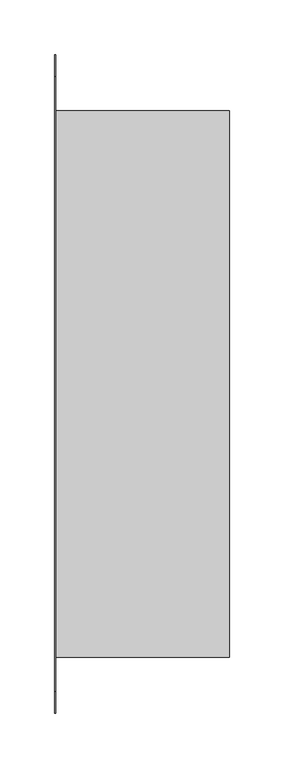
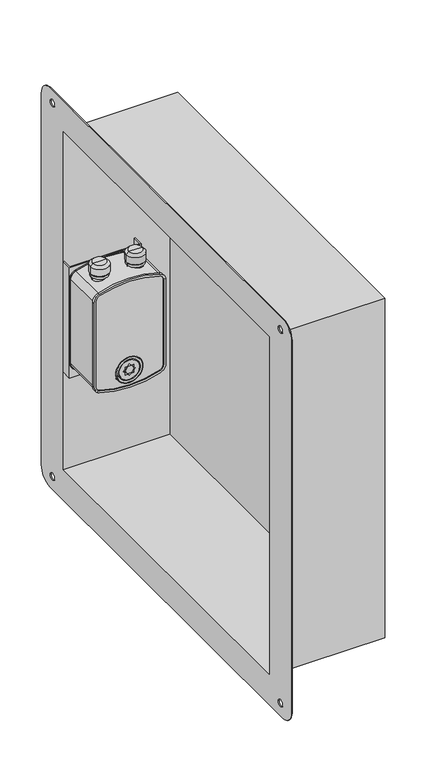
"""IFC4 building model written with IfcOpenShell, lengths in millimetres: damper geometry, СВ_КлапанПротивопожарный_КДМ-2М-3_НЗ_СтеновойПрямоугольный_СВОК : КДМ-2М_Привод FS."""

from ifc_helpers import new_model, si_unit, point, frame, frame_2d, origin, place, context, project, spatial, polyline, circle_curve, trimmed, segment, composite_curve, outline, extrude, source, transform, mapped, element, save
from ifc_brep_helpers import plane_surface, cylinder_surface, revolved_surface, advanced_brep


def damper_27d5a0eb(model_context):
    return source(origin(), model_context, "Body", "SolidModel", [
        extrude(outline(polyline([(-78.8298911, 248.8), (-78.8298911, 235.0), (18.8, 235.0), (18.8, 248.8), (20.0, 248.8), (20.0, 233.8), (-80.0298911, 233.8), (-80.0298911, 248.8), (-78.8298911, 248.8)])), frame((0.0, 0.0, -105.0), z_axis=(0.0, 0.0, 1.0), x_axis=(1.0, 0.0, 0.0)), (0.0, 0.0, 1.0), 162.5),
        extrude(outline(composite_curve([segment(polyline([(41.1260091, -80.0298911), (-83.1260091, -80.0298911)]), True, "CONTINUOUS"), segment(trimmed(circle_curve(frame_2d((-83.1260091, -69.0)), 11.0298911), [point((-83.1260091, -80.0298911))], [point((-93.5819866, -72.5115572))], False, "CARTESIAN"), True, "CONTINUOUS"), segment(trimmed(circle_curve(frame_2d((33.0, -30.0)), 133.5298911), [point((-93.5819866, -72.5115572))], [point((-93.5819866, 12.5115572))], False, "CARTESIAN"), True, "CONTINUOUS"), segment(trimmed(circle_curve(frame_2d((-83.1260091, 9.0)), 11.0298911), [point((-93.5819866, 12.5115572))], [point((-83.1260091, 20.0298911))], False, "CARTESIAN"), True, "CONTINUOUS"), segment(polyline([(-83.1260091, 20.0298911), (41.1260091, 20.0298911)]), True, "CONTINUOUS"), segment(trimmed(circle_curve(frame_2d((41.1260091, 9.0)), 11.0298911), [point((41.1260091, 20.0298911))], [point((51.5819866, 12.5115572))], False, "CARTESIAN"), True, "CONTINUOUS"), segment(trimmed(circle_curve(frame_2d((-75.0, -30.0)), 133.5298911), [point((51.5819866, 12.5115572))], [point((51.5819866, -72.5115572))], False, "CARTESIAN"), True, "CONTINUOUS"), segment(trimmed(circle_curve(frame_2d((41.1260091, -69.0)), 11.0298911), [point((51.5819866, -72.5115572))], [point((41.1260091, -80.0298911))], False, "CARTESIAN"), True, "CONTINUOUS")], self_intersect=False), holes=[composite_curve([segment(trimmed(circle_curve(frame_2d((33.0, -30.0)), 132.5), [point((-92.6056834, 12.1836735))], [point((-92.6056834, -72.1836735))], True, "CARTESIAN"), True, "CONTINUOUS"), segment(trimmed(circle_curve(frame_2d((-83.1260091, -69.0)), 10.0), [point((-92.6056834, -72.1836735))], [point((-83.1260091, -79.0))], True, "CARTESIAN"), True, "CONTINUOUS"), segment(polyline([(-83.1260091, -79.0), (41.1260091, -79.0)]), True, "CONTINUOUS"), segment(trimmed(circle_curve(frame_2d((41.1260091, -69.0)), 10.0), [point((41.1260091, -79.0))], [point((50.6056834, -72.1836735))], True, "CARTESIAN"), True, "CONTINUOUS"), segment(trimmed(circle_curve(frame_2d((-75.0, -30.0)), 132.5), [point((50.6056834, -72.1836735))], [point((50.6056834, 12.1836735))], True, "CARTESIAN"), True, "CONTINUOUS"), segment(trimmed(circle_curve(frame_2d((41.1260091, 9.0)), 10.0), [point((50.6056834, 12.1836735))], [point((41.1260091, 19.0))], True, "CARTESIAN"), True, "CONTINUOUS"), segment(polyline([(41.1260091, 19.0), (-83.1260091, 19.0)]), True, "CONTINUOUS"), segment(trimmed(circle_curve(frame_2d((-83.1260091, 9.0)), 10.0), [point((-83.1260091, 19.0))], [point((-92.6056834, 12.1836735))], True, "CARTESIAN"), True, "CONTINUOUS")], self_intersect=False)]), frame((0.0, 231.8, 0.0), z_axis=(0.0, 1.0, 0.0), x_axis=(0.0, 0.0, 1.0)), (0.0, 0.0, 1.0), 2.0),
        advanced_brep(
        [(-72.1836735, 177.8, -92.6056834), (-79.0, 177.8, -83.1260091), (-79.0, 175.8, -83.1260091), (-72.1836735, 175.8, -92.6056834), (-72.5115572, 174.8, -93.5819866), (-80.0298911, 174.8, -83.1260091), (-80.0298911, 177.8, -83.1260091), (-72.5115572, 177.8, -93.5819866), (-71.5469388, 175.8, -90.7097485), (-77.0, 175.8, -83.1260091), (-77.0, 174.8, -83.1260091), (-71.5469388, 174.8, -90.7097485), (12.1836735, 177.8, -92.6056834), (12.1836735, 175.8, -92.6056834), (12.5115572, 174.8, -93.5819866), (12.5115572, 177.8, -93.5819866), (11.5469388, 175.8, -90.7097485), (11.5469388, 174.8, -90.7097485), (19.0, 177.8, -83.1260091), (19.0, 175.8, -83.1260091), (20.0298911, 174.8, -83.1260091), (20.0298911, 177.8, -83.1260091), (17.0, 175.8, -83.1260091), (17.0, 174.8, -83.1260091), (19.0, 175.8, 41.1260091), (19.0, 177.8, 41.1260091), (20.0298911, 177.8, 41.1260091), (20.0298911, 174.8, 41.1260091), (17.0, 174.8, 41.1260091), (17.0, 175.8, 41.1260091), (12.1836735, 177.8, 50.6056834), (12.1836735, 175.8, 50.6056834), (12.5115572, 174.8, 51.5819866), (12.5115572, 177.8, 51.5819866), (11.5469388, 175.8, 48.7097485), (11.5469388, 174.8, 48.7097485), (-72.1836735, 177.8, 50.6056834), (-72.1836735, 175.8, 50.6056834), (-72.5115572, 174.8, 51.5819866), (-72.5115572, 177.8, 51.5819866), (-71.5469388, 175.8, 48.7097485), (-71.5469388, 174.8, 48.7097485), (-79.0, 177.8, 41.1260091), (-79.0, 175.8, 41.1260091), (-80.0298911, 174.8, 41.1260091), (-80.0298911, 177.8, 41.1260091), (-77.0, 175.8, 41.1260091), (-77.0, 174.8, 41.1260091)],
        [
            (0, 1, circle_curve(frame((-69.0, 177.8, -83.1260091), z_axis=(0.0, 1.0, 0.0), x_axis=(-1.0, 0.0, 0.0)), 10.0)),
            (1, 2),
            (2, 3, circle_curve(frame((-69.0, 175.8, -83.1260091), z_axis=(0.0, -1.0, 0.0), x_axis=(-1.0, 0.0, 0.0)), 10.0)),
            (3, 0),
            (4, 5, circle_curve(frame((-69.0, 174.8, -83.1260091), z_axis=(0.0, 1.0, 0.0), x_axis=(-1.0, 0.0, 0.0)), 11.0298911)),
            (5, 6),
            (6, 7, circle_curve(frame((-69.0, 177.8, -83.1260091), z_axis=(0.0, -1.0, 0.0), x_axis=(-1.0, 0.0, 0.0)), 11.0298911)),
            (7, 4),
            (8, 9, circle_curve(frame((-69.0, 175.8, -83.1260091), z_axis=(0.0, 1.0, 0.0), x_axis=(-1.0, 0.0, 0.0)), 8.0)),
            (9, 10),
            (10, 11, circle_curve(frame((-69.0, 174.8, -83.1260091), z_axis=(0.0, -1.0, 0.0), x_axis=(-1.0, 0.0, 0.0)), 8.0)),
            (11, 8),
            (12, 0, circle_curve(frame((-30.0, 177.8, 33.0), z_axis=(0.0, 1.0, 0.0), x_axis=(-0.31836734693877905, 0.0, -0.947967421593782)), 132.5)),
            (3, 13, circle_curve(frame((-30.0, 175.8, 33.0), z_axis=(0.0, -1.0, 0.0), x_axis=(-0.31836734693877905, 0.0, -0.947967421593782)), 132.5)),
            (13, 12),
            (14, 4, circle_curve(frame((-30.0, 174.8, 33.0), z_axis=(0.0, 1.0, 0.0), x_axis=(-0.31836734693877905, 0.0, -0.947967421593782)), 133.5298911)),
            (7, 15, circle_curve(frame((-30.0, 177.8, 33.0), z_axis=(0.0, -1.0, 0.0), x_axis=(-0.31836734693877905, 0.0, -0.947967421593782)), 133.5298911)),
            (15, 14),
            (16, 8, circle_curve(frame((-30.0, 175.8, 33.0), z_axis=(0.0, 1.0, 0.0), x_axis=(-0.31836734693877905, 0.0, -0.947967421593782)), 130.5)),
            (11, 17, circle_curve(frame((-30.0, 174.8, 33.0), z_axis=(0.0, -1.0, 0.0), x_axis=(-0.31836734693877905, 0.0, -0.947967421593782)), 130.5)),
            (17, 16),
            (18, 12, circle_curve(frame((9.0, 177.8, -83.1260091), z_axis=(0.0, 1.0, 0.0), x_axis=(0.3183673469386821, 0.0, -0.9479674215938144)), 10.0)),
            (13, 19, circle_curve(frame((9.0, 175.8, -83.1260091), z_axis=(0.0, -1.0, 0.0), x_axis=(0.3183673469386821, 0.0, -0.9479674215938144)), 10.0)),
            (19, 18),
            (20, 14, circle_curve(frame((9.0, 174.8, -83.1260091), z_axis=(0.0, 1.0, 0.0), x_axis=(0.3183673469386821, 0.0, -0.9479674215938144)), 11.0298911)),
            (15, 21, circle_curve(frame((9.0, 177.8, -83.1260091), z_axis=(0.0, -1.0, 0.0), x_axis=(0.3183673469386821, 0.0, -0.9479674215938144)), 11.0298911)),
            (21, 20),
            (22, 16, circle_curve(frame((9.0, 175.8, -83.1260091), z_axis=(0.0, 1.0, 0.0), x_axis=(0.3183673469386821, 0.0, -0.9479674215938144)), 8.0)),
            (17, 23, circle_curve(frame((9.0, 174.8, -83.1260091), z_axis=(0.0, -1.0, 0.0), x_axis=(0.3183673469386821, 0.0, -0.9479674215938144)), 8.0)),
            (23, 22),
            (19, 24),
            (24, 25),
            (25, 18),
            (21, 26),
            (26, 27),
            (27, 20),
            (23, 28),
            (28, 29),
            (29, 22),
            (30, 25, circle_curve(frame((9.0, 177.8, 41.1260091), z_axis=(0.0, 1.0, 0.0), x_axis=(1.0, 0.0, 0.0)), 10.0)),
            (24, 31, circle_curve(frame((9.0, 175.8, 41.1260091), z_axis=(0.0, -1.0, 0.0), x_axis=(1.0, 0.0, 0.0)), 10.0)),
            (31, 30),
            (32, 27, circle_curve(frame((9.0, 174.8, 41.1260091), z_axis=(0.0, 1.0, 0.0), x_axis=(1.0, 0.0, 0.0)), 11.0298911)),
            (26, 33, circle_curve(frame((9.0, 177.8, 41.1260091), z_axis=(0.0, -1.0, 0.0), x_axis=(1.0, 0.0, 0.0)), 11.0298911)),
            (33, 32),
            (34, 29, circle_curve(frame((9.0, 175.8, 41.1260091), z_axis=(0.0, 1.0, 0.0), x_axis=(1.0, 0.0, 0.0)), 8.0)),
            (28, 35, circle_curve(frame((9.0, 174.8, 41.1260091), z_axis=(0.0, -1.0, 0.0), x_axis=(1.0, 0.0, 0.0)), 8.0)),
            (35, 34),
            (36, 30, circle_curve(frame((-30.0, 177.8, -75.0), z_axis=(0.0, 1.0, 0.0), x_axis=(0.3183673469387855, 0.0, 0.9479674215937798)), 132.5)),
            (31, 37, circle_curve(frame((-30.0, 175.8, -75.0), z_axis=(0.0, -1.0, 0.0), x_axis=(0.3183673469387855, 0.0, 0.9479674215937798)), 132.5)),
            (37, 36),
            (38, 32, circle_curve(frame((-30.0, 174.8, -75.0), z_axis=(0.0, 1.0, 0.0), x_axis=(0.3183673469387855, 0.0, 0.9479674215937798)), 133.5298911)),
            (33, 39, circle_curve(frame((-30.0, 177.8, -75.0), z_axis=(0.0, -1.0, 0.0), x_axis=(0.3183673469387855, 0.0, 0.9479674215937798)), 133.5298911)),
            (39, 38),
            (40, 34, circle_curve(frame((-30.0, 175.8, -75.0), z_axis=(0.0, 1.0, 0.0), x_axis=(0.3183673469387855, 0.0, 0.9479674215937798)), 130.5)),
            (35, 41, circle_curve(frame((-30.0, 174.8, -75.0), z_axis=(0.0, -1.0, 0.0), x_axis=(0.3183673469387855, 0.0, 0.9479674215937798)), 130.5)),
            (41, 40),
            (42, 36, circle_curve(frame((-69.0, 177.8, 41.1260091), z_axis=(0.0, 1.0, 0.0), x_axis=(-0.3183673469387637, 0.0, 0.947967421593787)), 10.0)),
            (37, 43, circle_curve(frame((-69.0, 175.8, 41.1260091), z_axis=(0.0, -1.0, 0.0), x_axis=(-0.3183673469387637, 0.0, 0.947967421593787)), 10.0)),
            (43, 42),
            (44, 38, circle_curve(frame((-69.0, 174.8, 41.1260091), z_axis=(0.0, 1.0, 0.0), x_axis=(-0.3183673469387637, 0.0, 0.947967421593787)), 11.0298911)),
            (39, 45, circle_curve(frame((-69.0, 177.8, 41.1260091), z_axis=(0.0, -1.0, 0.0), x_axis=(-0.3183673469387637, 0.0, 0.947967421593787)), 11.0298911)),
            (45, 44),
            (46, 40, circle_curve(frame((-69.0, 175.8, 41.1260091), z_axis=(0.0, 1.0, 0.0), x_axis=(-0.3183673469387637, 0.0, 0.947967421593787)), 8.0)),
            (41, 47, circle_curve(frame((-69.0, 174.8, 41.1260091), z_axis=(0.0, -1.0, 0.0), x_axis=(-0.3183673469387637, 0.0, 0.947967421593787)), 8.0)),
            (47, 46),
            (2, 43),
            (46, 9),
            (1, 42),
            (6, 45),
            (5, 44),
            (10, 47),
        ],
        [
            revolved_surface(polyline([(-79.0, 175.8, -83.1260091), (-79.0, 177.8, -83.1260091)]), (-69.0, 175.8, -83.1260091), (0.0, -1.0, 0.0)),
            cylinder_surface(frame((-69.0, 175.8, -83.1260091), z_axis=(0.0, -1.0, 0.0), x_axis=(-1.0, 0.0, 0.0)), 11.0298911),
            revolved_surface(polyline([(-77.0, 174.8, -83.1260091), (-77.0, 175.8, -83.1260091)]), (-69.0, 175.8, -83.1260091), (0.0, -1.0, 0.0)),
            revolved_surface(polyline([(-72.18367346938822, 175.8, -92.60568336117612), (-72.18367346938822, 177.8, -92.60568336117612)]), (-30.0, 175.8, 33.0), (0.0, -1.0, 0.0)),
            cylinder_surface(frame((-30.0, 175.8, 33.0), z_axis=(0.0, -1.0, 0.0), x_axis=(-0.31836734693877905, 0.0, -0.947967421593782)), 133.5298911),
            revolved_surface(polyline([(-71.54693877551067, 174.8, -90.70974851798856), (-71.54693877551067, 175.8, -90.70974851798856)]), (-30.0, 175.8, 33.0), (0.0, -1.0, 0.0)),
            revolved_surface(polyline([(12.183673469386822, 175.8, -92.60568331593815), (12.183673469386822, 177.8, -92.60568331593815)]), (9.0, 175.8, -83.1260091), (0.0, -1.0, 0.0)),
            cylinder_surface(frame((9.0, 175.8, -83.1260091), z_axis=(0.0, -1.0, 0.0), x_axis=(0.3183673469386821, 0.0, -0.9479674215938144)), 11.0298911),
            revolved_surface(polyline([(11.546938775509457, 174.8, -90.70974847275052), (11.546938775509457, 175.8, -90.70974847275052)]), (9.0, 175.8, -83.1260091), (0.0, -1.0, 0.0)),
            plane_surface(frame((19.0, 175.8, -83.1260091), z_axis=(-1.0, 0.0, 0.0), x_axis=(0.0, 0.0, 1.0))),
            plane_surface(frame((20.0298911, 177.8, -83.1260091), z_axis=(1.0, 0.0, 0.0), x_axis=(0.0, 0.0, 1.0))),
            plane_surface(frame((17.0, 174.8, -83.1260091), z_axis=(-1.0, 0.0, 0.0), x_axis=(0.0, 0.0, 1.0))),
            revolved_surface(polyline([(19.0, 175.8, 41.1260091), (19.0, 177.8, 41.1260091)]), (9.0, 175.8, 41.1260091), (0.0, -1.0, 0.0)),
            cylinder_surface(frame((9.0, 175.8, 41.1260091), z_axis=(0.0, -1.0, 0.0), x_axis=(1.0, 0.0, 0.0)), 11.0298911),
            revolved_surface(polyline([(17.0, 174.8, 41.1260091), (17.0, 175.8, 41.1260091)]), (9.0, 175.8, 41.1260091), (0.0, -1.0, 0.0)),
            revolved_surface(polyline([(12.183673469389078, 175.8, 50.60568336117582), (12.183673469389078, 177.8, 50.60568336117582)]), (-30.0, 175.8, -75.0), (0.0, -1.0, 0.0)),
            cylinder_surface(frame((-30.0, 175.8, -75.0), z_axis=(0.0, -1.0, 0.0), x_axis=(0.3183673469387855, 0.0, 0.9479674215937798)), 133.5298911),
            revolved_surface(polyline([(11.546938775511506, 174.8, 48.70974851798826), (11.546938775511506, 175.8, 48.70974851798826)]), (-30.0, 175.8, -75.0), (0.0, -1.0, 0.0)),
            revolved_surface(polyline([(-72.18367346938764, 175.8, 50.60568331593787), (-72.18367346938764, 177.8, 50.60568331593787)]), (-69.0, 175.8, 41.1260091), (0.0, -1.0, 0.0)),
            cylinder_surface(frame((-69.0, 175.8, 41.1260091), z_axis=(0.0, -1.0, 0.0), x_axis=(-0.3183673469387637, 0.0, 0.947967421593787)), 11.0298911),
            revolved_surface(polyline([(-71.54693877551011, 174.8, 48.70974847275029), (-71.54693877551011, 175.8, 48.70974847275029)]), (-69.0, 175.8, 41.1260091), (0.0, -1.0, 0.0)),
            plane_surface(frame((-77.0, 175.8, 41.1260091), z_axis=(0.0, 1.0, 0.0), x_axis=(0.0, 0.0, -1.0))),
            plane_surface(frame((-79.0, 175.8, 41.1260091), z_axis=(1.0, 0.0, 0.0), x_axis=(0.0, 0.0, -1.0))),
            plane_surface(frame((-79.0, 177.8, 41.1260091), z_axis=(0.0, 1.0, 0.0), x_axis=(0.0, 0.0, -1.0))),
            plane_surface(frame((-80.0298911, 177.8, 41.1260091), z_axis=(-1.0, 0.0, 0.0), x_axis=(0.0, 0.0, -1.0))),
            plane_surface(frame((-80.0298911, 174.8, 41.1260091), z_axis=(0.0, -1.0, 0.0), x_axis=(0.0, 0.0, -1.0))),
            plane_surface(frame((-77.0, 174.8, 41.1260091), z_axis=(1.0, 0.0, 0.0), x_axis=(0.0, 0.0, -1.0))),
        ],
        [
            (0, [[1, 2, 3, 4]]),
            (1, [[5, 6, 7, 8]]),
            (2, [[9, 10, 11, 12]]),
            (3, [[13, -4, 14, 15]]),
            (4, [[16, -8, 17, 18]]),
            (5, [[19, -12, 20, 21]]),
            (6, [[22, -15, 23, 24]]),
            (7, [[25, -18, 26, 27]]),
            (8, [[28, -21, 29, 30]]),
            (9, [[-24, 31, 32, 33]]),
            (10, [[-27, 34, 35, 36]]),
            (11, [[-30, 37, 38, 39]]),
            (12, [[40, -32, 41, 42]]),
            (13, [[43, -35, 44, 45]]),
            (14, [[46, -38, 47, 48]]),
            (15, [[49, -42, 50, 51]]),
            (16, [[52, -45, 53, 54]]),
            (17, [[55, -48, 56, 57]]),
            (18, [[58, -51, 59, 60]]),
            (19, [[61, -54, 62, 63]]),
            (20, [[64, -57, 65, 66]]),
            (21, [[67, -59, -50, -41, -31, -23, -14, -3], [-55, -64, 68, -9, -19, -28, -39, -46]]),
            (22, [[-60, -67, -2, 69]]),
            (23, [[70, -62, -53, -44, -34, -26, -17, -7], [-49, -58, -69, -1, -13, -22, -33, -40]]),
            (24, [[-63, -70, -6, 71]]),
            (25, [[-52, -61, -71, -5, -16, -25, -36, -43], [72, -65, -56, -47, -37, -29, -20, -11]]),
            (26, [[-66, -72, -10, -68]]),
        ],
    ),
        advanced_brep(
        [(-45.0, 204.8, 57.5), (-65.0, 204.8, 57.5), (-66.9771465, 204.8, 57.5), (-43.0228535, 204.8, 57.5), (-66.9771465, 204.8, 60.4915282), (-43.0228535, 204.8, 60.4915282), (-62.9771465, 204.8, 60.4915282), (-47.0228535, 204.8, 60.4915282), (-62.9771465, 204.8, 62.4754985), (-47.0228535, 204.8, 62.4754985), (-67.9771465, 204.8, 62.4754985), (-42.0228535, 204.8, 62.4754985), (-67.9771465, 204.8, 72.4754985), (-42.0228535, 204.8, 72.4754985), (-64.4416126, 204.8, 76.0110324), (-45.5583874, 204.8, 76.0110324), (-55.0, 204.8, 76.0110324), (-55.0, 204.8, 45.900028), (-65.0, 204.8, 45.900028), (-45.0, 204.8, 45.900028)],
        [
            (0, 1, circle_curve(frame((-55.0, 204.8, 57.5), z_axis=(0.0, 0.0, 1.0), x_axis=(-1.0, 0.0, 0.0)), 10.0)),
            (1, 2),
            (2, 3, circle_curve(frame((-55.0, 204.8, 57.5), z_axis=(0.0, 0.0, -1.0), x_axis=(-1.0, 0.0, 0.0)), 11.9771465)),
            (3, 0),
            (1, 0, circle_curve(frame((-55.0, 204.8, 57.5), z_axis=(0.0, 0.0, 1.0), x_axis=(-1.0, 0.0, 0.0)), 10.0)),
            (3, 2, circle_curve(frame((-55.0, 204.8, 57.5), z_axis=(0.0, 0.0, -1.0), x_axis=(-1.0, 0.0, 0.0)), 11.9771465)),
            (2, 4),
            (4, 5, circle_curve(frame((-55.0, 204.8, 60.4915282), z_axis=(0.0, 0.0, -1.0), x_axis=(-1.0, 0.0, 0.0)), 11.9771465)),
            (5, 3),
            (5, 4, circle_curve(frame((-55.0, 204.8, 60.4915282), z_axis=(0.0, 0.0, -1.0), x_axis=(-1.0, 0.0, 0.0)), 11.9771465)),
            (4, 6),
            (6, 7, circle_curve(frame((-55.0, 204.8, 60.4915282), z_axis=(0.0, 0.0, -1.0), x_axis=(-1.0, 0.0, 0.0)), 7.9771465)),
            (7, 5),
            (7, 6, circle_curve(frame((-55.0, 204.8, 60.4915282), z_axis=(0.0, 0.0, -1.0), x_axis=(-1.0, 0.0, 0.0)), 7.9771465)),
            (6, 8),
            (8, 9, circle_curve(frame((-55.0, 204.8, 62.4754985), z_axis=(0.0, 0.0, -1.0), x_axis=(-1.0, 0.0, 0.0)), 7.9771465)),
            (9, 7),
            (9, 8, circle_curve(frame((-55.0, 204.8, 62.4754985), z_axis=(0.0, 0.0, -1.0), x_axis=(-1.0, 0.0, 0.0)), 7.9771465)),
            (8, 10),
            (10, 11, circle_curve(frame((-55.0, 204.8, 62.4754985), z_axis=(0.0, 0.0, -1.0), x_axis=(-1.0, 0.0, 0.0)), 12.9771465)),
            (11, 9),
            (11, 10, circle_curve(frame((-55.0, 204.8, 62.4754985), z_axis=(0.0, 0.0, -1.0), x_axis=(-1.0, 0.0, 0.0)), 12.9771465)),
            (10, 12),
            (12, 13, circle_curve(frame((-55.0, 204.8, 72.4754985), z_axis=(0.0, 0.0, -1.0), x_axis=(-1.0, 0.0, 0.0)), 12.9771465)),
            (13, 11),
            (13, 12, circle_curve(frame((-55.0, 204.8, 72.4754985), z_axis=(0.0, 0.0, -1.0), x_axis=(-1.0, 0.0, 0.0)), 12.9771465)),
            (12, 14),
            (14, 15, circle_curve(frame((-55.0, 204.8, 76.0110324), z_axis=(0.0, 0.0, -1.0), x_axis=(-1.0, 0.0, 0.0)), 9.4416126)),
            (15, 13),
            (15, 14, circle_curve(frame((-55.0, 204.8, 76.0110324), z_axis=(0.0, 0.0, -1.0), x_axis=(-1.0, 0.0, 0.0)), 9.4416126)),
            (14, 16),
            (16, 15),
            (17, 18),
            (18, 19, circle_curve(frame((-55.0, 204.8, 45.900028), z_axis=(0.0, 0.0, -1.0), x_axis=(-1.0, 0.0, 0.0)), 10.0)),
            (19, 17),
            (19, 18, circle_curve(frame((-55.0, 204.8, 45.900028), z_axis=(0.0, 0.0, -1.0), x_axis=(-1.0, 0.0, 0.0)), 10.0)),
            (18, 1),
            (0, 19),
        ],
        [
            plane_surface(frame((-55.0, 204.8, 57.5), z_axis=(0.0, 0.0, -1.0), x_axis=(-1.0, 0.0, 0.0))),
            cylinder_surface(frame((-55.0, 204.8, 386.314844), z_axis=(0.0, 0.0, -1.0), x_axis=(-1.0, 0.0, 0.0)), 11.9771465),
            plane_surface(frame((-55.0, 204.8, 60.4915282), z_axis=(0.0, 0.0, 1.0), x_axis=(-1.0, 0.0, 0.0))),
            cylinder_surface(frame((-55.0, 204.8, 386.314844), z_axis=(0.0, 0.0, -1.0), x_axis=(-1.0, 0.0, 0.0)), 7.9771465),
            plane_surface(frame((-55.0, 204.8, 62.4754985), z_axis=(0.0, 0.0, -1.0), x_axis=(-1.0, 0.0, 0.0))),
            cylinder_surface(frame((-55.0, 204.8, 386.314844), z_axis=(0.0, 0.0, -1.0), x_axis=(-1.0, 0.0, 0.0)), 12.9771465),
            revolved_surface(polyline([(-64.4416126, 204.8, 76.0110324), (-67.9771465, 204.8, 72.4754985)]), (-55.0, 204.8, 386.314844), (0.0, 0.0, -1.0)),
            plane_surface(frame((-55.0, 204.8, 76.0110324), z_axis=(0.0, 0.0, 1.0), x_axis=(-1.0, 0.0, 0.0))),
            plane_surface(frame((-55.0, 204.8, 45.900028), z_axis=(0.0, 0.0, -1.0), x_axis=(-1.0, 0.0, 0.0))),
            cylinder_surface(frame((-55.0, 204.8, 386.314844), z_axis=(0.0, 0.0, -1.0), x_axis=(-1.0, 0.0, 0.0)), 10.0),
        ],
        [
            (0, [[1, 2, 3, 4]]),
            (0, [[5, -4, 6, -2]]),
            (1, [[-3, 7, 8, 9]]),
            (1, [[-6, -9, 10, -7]]),
            (2, [[-8, 11, 12, 13]]),
            (2, [[-10, -13, 14, -11]]),
            (3, [[-12, 15, 16, 17]]),
            (3, [[-14, -17, 18, -15]]),
            (4, [[-16, 19, 20, 21]]),
            (4, [[-18, -21, 22, -19]]),
            (5, [[-20, 23, 24, 25]]),
            (5, [[-22, -25, 26, -23]]),
            (6, [[-24, 27, 28, 29]]),
            (6, [[-26, -29, 30, -27]]),
            (7, [[-28, 31, 32]]),
            (7, [[-30, -32, -31]]),
            (8, [[33, 34, 35]]),
            (8, [[-35, 36, -33]]),
            (9, [[-34, 37, -1, 38]]),
            (9, [[-36, -38, -5, -37]]),
        ],
    ),
        advanced_brep(
        [(-16.9771465, 204.8, 57.5), (6.9771465, 204.8, 57.5), (5.0, 204.8, 57.5), (-15.0, 204.8, 57.5), (-16.9771465, 204.8, 60.4915282), (6.9771465, 204.8, 60.4915282), (-12.9771465, 204.8, 60.4915282), (2.9771465, 204.8, 60.4915282), (-12.9771465, 204.8, 62.4754985), (2.9771465, 204.8, 62.4754985), (-17.9771465, 204.8, 62.4754985), (7.9771465, 204.8, 62.4754985), (-17.9771465, 204.8, 72.4754985), (7.9771465, 204.8, 72.4754985), (-14.4416126, 204.8, 76.0110324), (4.4416126, 204.8, 76.0110324), (-5.0, 204.8, 76.0110324), (-15.0, 204.8, 45.900028), (5.0, 204.8, 45.900028), (-5.0, 204.8, 45.900028)],
        [
            (0, 1, circle_curve(frame((-5.0, 204.8, 57.5), z_axis=(0.0, 0.0, -1.0), x_axis=(1.0, 0.0, 0.0)), 11.9771465)),
            (1, 2),
            (2, 3, circle_curve(frame((-5.0, 204.8, 57.5), z_axis=(0.0, 0.0, 1.0), x_axis=(1.0, 0.0, 0.0)), 10.0)),
            (3, 0),
            (1, 0, circle_curve(frame((-5.0, 204.8, 57.5), z_axis=(0.0, 0.0, -1.0), x_axis=(1.0, 0.0, 0.0)), 11.9771465)),
            (3, 2, circle_curve(frame((-5.0, 204.8, 57.5), z_axis=(0.0, 0.0, 1.0), x_axis=(1.0, 0.0, 0.0)), 10.0)),
            (4, 5, circle_curve(frame((-5.0, 204.8, 60.4915282), z_axis=(0.0, 0.0, -1.0), x_axis=(1.0, 0.0, 0.0)), 11.9771465)),
            (5, 1),
            (0, 4),
            (5, 4, circle_curve(frame((-5.0, 204.8, 60.4915282), z_axis=(0.0, 0.0, -1.0), x_axis=(1.0, 0.0, 0.0)), 11.9771465)),
            (6, 7, circle_curve(frame((-5.0, 204.8, 60.4915282), z_axis=(0.0, 0.0, -1.0), x_axis=(1.0, 0.0, 0.0)), 7.9771465)),
            (7, 5),
            (4, 6),
            (7, 6, circle_curve(frame((-5.0, 204.8, 60.4915282), z_axis=(0.0, 0.0, -1.0), x_axis=(1.0, 0.0, 0.0)), 7.9771465)),
            (8, 9, circle_curve(frame((-5.0, 204.8, 62.4754985), z_axis=(0.0, 0.0, -1.0), x_axis=(1.0, 0.0, 0.0)), 7.9771465)),
            (9, 7),
            (6, 8),
            (9, 8, circle_curve(frame((-5.0, 204.8, 62.4754985), z_axis=(0.0, 0.0, -1.0), x_axis=(1.0, 0.0, 0.0)), 7.9771465)),
            (10, 11, circle_curve(frame((-5.0, 204.8, 62.4754985), z_axis=(0.0, 0.0, -1.0), x_axis=(1.0, 0.0, 0.0)), 12.9771465)),
            (11, 9),
            (8, 10),
            (11, 10, circle_curve(frame((-5.0, 204.8, 62.4754985), z_axis=(0.0, 0.0, -1.0), x_axis=(1.0, 0.0, 0.0)), 12.9771465)),
            (12, 13, circle_curve(frame((-5.0, 204.8, 72.4754985), z_axis=(0.0, 0.0, -1.0), x_axis=(1.0, 0.0, 0.0)), 12.9771465)),
            (13, 11),
            (10, 12),
            (13, 12, circle_curve(frame((-5.0, 204.8, 72.4754985), z_axis=(0.0, 0.0, -1.0), x_axis=(1.0, 0.0, 0.0)), 12.9771465)),
            (14, 15, circle_curve(frame((-5.0, 204.8, 76.0110324), z_axis=(0.0, 0.0, -1.0), x_axis=(1.0, 0.0, 0.0)), 9.4416126)),
            (15, 13),
            (12, 14),
            (15, 14, circle_curve(frame((-5.0, 204.8, 76.0110324), z_axis=(0.0, 0.0, -1.0), x_axis=(1.0, 0.0, 0.0)), 9.4416126)),
            (16, 15),
            (14, 16),
            (17, 18, circle_curve(frame((-5.0, 204.8, 45.900028), z_axis=(0.0, 0.0, -1.0), x_axis=(1.0, 0.0, 0.0)), 10.0)),
            (18, 19),
            (19, 17),
            (18, 17, circle_curve(frame((-5.0, 204.8, 45.900028), z_axis=(0.0, 0.0, -1.0), x_axis=(1.0, 0.0, 0.0)), 10.0)),
            (2, 18),
            (17, 3),
        ],
        [
            plane_surface(frame((-5.0, 204.8, 57.5), z_axis=(0.0, 0.0, -1.0), x_axis=(1.0, 0.0, 0.0))),
            cylinder_surface(frame((-5.0, 204.8, 386.314844), z_axis=(0.0, 0.0, 1.0), x_axis=(1.0, 0.0, 0.0)), 11.9771465),
            plane_surface(frame((-5.0, 204.8, 60.4915282), z_axis=(0.0, 0.0, 1.0), x_axis=(1.0, 0.0, 0.0))),
            cylinder_surface(frame((-5.0, 204.8, 386.314844), z_axis=(0.0, 0.0, 1.0), x_axis=(1.0, 0.0, 0.0)), 7.9771465),
            plane_surface(frame((-5.0, 204.8, 62.4754985), z_axis=(0.0, 0.0, -1.0), x_axis=(1.0, 0.0, 0.0))),
            cylinder_surface(frame((-5.0, 204.8, 386.314844), z_axis=(0.0, 0.0, 1.0), x_axis=(1.0, 0.0, 0.0)), 12.9771465),
            revolved_surface(polyline([(7.9771465, 204.8, 72.4754985), (4.4416126, 204.8, 76.0110324)]), (-5.0, 204.8, 386.314844), (0.0, 0.0, 1.0)),
            plane_surface(frame((-5.0, 204.8, 76.0110324), z_axis=(0.0, 0.0, 1.0), x_axis=(1.0, 0.0, 0.0))),
            plane_surface(frame((-5.0, 204.8, 45.900028), z_axis=(0.0, 0.0, -1.0), x_axis=(1.0, 0.0, 0.0))),
            cylinder_surface(frame((-5.0, 204.8, 386.314844), z_axis=(0.0, 0.0, 1.0), x_axis=(1.0, 0.0, 0.0)), 10.0),
        ],
        [
            (0, [[1, 2, 3, 4]]),
            (0, [[5, -4, 6, -2]]),
            (1, [[7, 8, -1, 9]]),
            (1, [[10, -9, -5, -8]]),
            (2, [[11, 12, -7, 13]]),
            (2, [[14, -13, -10, -12]]),
            (3, [[15, 16, -11, 17]]),
            (3, [[18, -17, -14, -16]]),
            (4, [[19, 20, -15, 21]]),
            (4, [[22, -21, -18, -20]]),
            (5, [[23, 24, -19, 25]]),
            (5, [[26, -25, -22, -24]]),
            (6, [[27, 28, -23, 29]]),
            (6, [[30, -29, -26, -28]]),
            (7, [[31, -27, 32]]),
            (7, [[-32, -30, -31]]),
            (8, [[33, 34, 35]]),
            (8, [[36, -35, -34]]),
            (9, [[-3, 37, -33, 38]]),
            (9, [[-6, -38, -36, -37]]),
        ],
    ),
        extrude(outline(polyline([(-69.8167305, -27.0074379), (-69.8167305, -32.9925621), (-75.0, -35.9851241), (-80.1832695, -32.9925621), (-80.1832695, -27.0074379), (-75.0, -24.0148759), (-69.8167305, -27.0074379)])), frame((0.0, 175.8, 0.0), z_axis=(0.0, 1.0, 0.0), x_axis=(0.0, 0.0, 1.0)), (0.0, 0.0, 1.0), 73.0),
        advanced_brep(
        [(-72.1836735, 175.8, 50.6056834), (-79.0, 175.8, 41.1260091), (-79.0, 175.8, -83.1260091), (-72.1836735, 175.8, -92.6056834), (12.1836735, 175.8, -92.6056834), (19.0, 175.8, -83.1260091), (19.0, 175.8, 41.1260091), (12.1836735, 175.8, 50.6056834), (-30.0, 175.8, -56.0), (-30.0, 175.8, -94.0), (-30.0, 175.8, -57.0), (-30.0, 175.8, -93.0), (-30.0, 175.8, -60.0), (-30.0, 175.8, -90.0), (-30.0, 175.8, -61.0), (-30.0, 175.8, -89.0), (-35.9954463, 175.8, -80.9954463), (-35.9954463, 175.8, -77.4898351), (-38.4852814, 175.8, -75.0), (-35.9954463, 175.8, -72.5101649), (-35.9954463, 175.8, -69.0045537), (-32.4898351, 175.8, -69.0045537), (-30.0, 175.8, -66.5147186), (-27.5101649, 175.8, -69.0045537), (-24.0045537, 175.8, -69.0045537), (-24.0045537, 175.8, -72.5101649), (-21.5147186, 175.8, -75.0), (-24.0045537, 175.8, -77.4898351), (-24.0045537, 175.8, -80.9954463), (-27.5101649, 175.8, -80.9954463), (-30.0, 175.8, -83.4852814), (-32.4898351, 175.8, -80.9954463), (-72.1836735, 233.8, 50.6056834), (12.1836735, 233.8, 50.6056834), (19.0, 233.8, 41.1260091), (19.0, 233.8, -83.1260091), (12.1836735, 233.8, -92.6056834), (-72.1836735, 233.8, -92.6056834), (-79.0, 233.8, -83.1260091), (-79.0, 233.8, 41.1260091), (-30.0, 180.8, -94.0), (-30.0, 180.8, -56.0), (-30.0, 180.8, -93.0), (-30.0, 180.8, -57.0), (-30.0, 180.8, -90.0), (-30.0, 180.8, -60.0), (-30.0, 180.8, -89.0), (-30.0, 180.8, -61.0), (-35.9954463, 180.8, -77.4898351), (-35.9954463, 180.8, -80.9954463), (-32.4898351, 180.8, -80.9954463), (-30.0, 180.8, -83.4852814), (-27.5101649, 180.8, -80.9954463), (-24.0045537, 180.8, -80.9954463), (-24.0045537, 180.8, -77.4898351), (-21.5147186, 180.8, -75.0), (-24.0045537, 180.8, -72.5101649), (-24.0045537, 180.8, -69.0045537), (-27.5101649, 180.8, -69.0045537), (-30.0, 180.8, -66.5147186), (-32.4898351, 180.8, -69.0045537), (-35.9954463, 180.8, -69.0045537), (-35.9954463, 180.8, -72.5101649), (-38.4852814, 180.8, -75.0)],
        [
            (0, 1, circle_curve(frame((-69.0, 175.8, 41.1260091), z_axis=(0.0, -1.0, 0.0), x_axis=(0.0, 0.0, 1.0)), 10.0)),
            (1, 2),
            (2, 3, circle_curve(frame((-69.0, 175.8, -83.1260091), z_axis=(0.0, -1.0, 0.0), x_axis=(0.0, 0.0, 1.0)), 10.0)),
            (3, 4, circle_curve(frame((-30.0, 175.8, 33.0), z_axis=(0.0, -1.0, 0.0), x_axis=(0.0, 0.0, 1.0)), 132.5)),
            (4, 5, circle_curve(frame((9.0, 175.8, -83.1260091), z_axis=(0.0, -1.0, 0.0), x_axis=(0.0, 0.0, 1.0)), 10.0)),
            (5, 6),
            (6, 7, circle_curve(frame((9.0, 175.8, 41.1260091), z_axis=(0.0, -1.0, 0.0), x_axis=(0.0, 0.0, 1.0)), 10.0)),
            (7, 0, circle_curve(frame((-30.0, 175.8, -75.0), z_axis=(0.0, -1.0, 0.0), x_axis=(0.0, 0.0, 1.0)), 132.5)),
            (8, 9, circle_curve(frame((-30.0, 175.8, -75.0), z_axis=(0.0, 1.0, 0.0), x_axis=(0.0, 0.0, 1.0)), 19.0)),
            (9, 8, circle_curve(frame((-30.0, 175.8, -75.0), z_axis=(0.0, 1.0, 0.0), x_axis=(0.0, 0.0, 1.0)), 19.0)),
            (10, 11, circle_curve(frame((-30.0, 175.8, -75.0), z_axis=(0.0, -1.0, 0.0), x_axis=(0.0, 0.0, 1.0)), 18.0)),
            (11, 10, circle_curve(frame((-30.0, 175.8, -75.0), z_axis=(0.0, -1.0, 0.0), x_axis=(0.0, 0.0, 1.0)), 18.0)),
            (12, 13, circle_curve(frame((-30.0, 175.8, -75.0), z_axis=(0.0, 1.0, 0.0), x_axis=(0.0, 0.0, 1.0)), 15.0)),
            (13, 12, circle_curve(frame((-30.0, 175.8, -75.0), z_axis=(0.0, 1.0, 0.0), x_axis=(0.0, 0.0, 1.0)), 15.0)),
            (14, 15, circle_curve(frame((-30.0, 175.8, -75.0), z_axis=(0.0, -1.0, 0.0), x_axis=(0.0, 0.0, 1.0)), 14.0)),
            (15, 14, circle_curve(frame((-30.0, 175.8, -75.0), z_axis=(0.0, -1.0, 0.0), x_axis=(0.0, 0.0, 1.0)), 14.0)),
            (16, 17),
            (17, 18),
            (18, 19),
            (19, 20),
            (20, 21),
            (21, 22),
            (22, 23),
            (23, 24),
            (24, 25),
            (25, 26),
            (26, 27),
            (27, 28),
            (28, 29),
            (29, 30),
            (30, 31),
            (31, 16),
            (32, 33, circle_curve(frame((-30.0, 233.8, -75.0), z_axis=(0.0, 1.0, 0.0), x_axis=(0.0, 0.0, 1.0)), 132.5)),
            (33, 34, circle_curve(frame((9.0, 233.8, 41.1260091), z_axis=(0.0, 1.0, 0.0), x_axis=(0.0, 0.0, 1.0)), 10.0)),
            (34, 35),
            (35, 36, circle_curve(frame((9.0, 233.8, -83.1260091), z_axis=(0.0, 1.0, 0.0), x_axis=(0.0, 0.0, 1.0)), 10.0)),
            (36, 37, circle_curve(frame((-30.0, 233.8, 33.0), z_axis=(0.0, 1.0, 0.0), x_axis=(0.0, 0.0, 1.0)), 132.5)),
            (37, 38, circle_curve(frame((-69.0, 233.8, -83.1260091), z_axis=(0.0, 1.0, 0.0), x_axis=(0.0, 0.0, 1.0)), 10.0)),
            (38, 39),
            (39, 32, circle_curve(frame((-69.0, 233.8, 41.1260091), z_axis=(0.0, 1.0, 0.0), x_axis=(0.0, 0.0, 1.0)), 10.0)),
            (0, 32),
            (39, 1),
            (38, 2),
            (37, 3),
            (36, 4),
            (35, 5),
            (34, 6),
            (33, 7),
            (40, 41, circle_curve(frame((-30.0, 180.8, -75.0), z_axis=(0.0, -1.0, 0.0), x_axis=(0.0, 0.0, 1.0)), 19.0)),
            (41, 40, circle_curve(frame((-30.0, 180.8, -75.0), z_axis=(0.0, -1.0, 0.0), x_axis=(0.0, 0.0, 1.0)), 19.0)),
            (42, 43, circle_curve(frame((-30.0, 180.8, -75.0), z_axis=(0.0, 1.0, 0.0), x_axis=(0.0, 0.0, 1.0)), 18.0)),
            (43, 42, circle_curve(frame((-30.0, 180.8, -75.0), z_axis=(0.0, 1.0, 0.0), x_axis=(0.0, 0.0, 1.0)), 18.0)),
            (44, 45, circle_curve(frame((-30.0, 180.8, -75.0), z_axis=(0.0, -1.0, 0.0), x_axis=(0.0, 0.0, 1.0)), 15.0)),
            (45, 44, circle_curve(frame((-30.0, 180.8, -75.0), z_axis=(0.0, -1.0, 0.0), x_axis=(0.0, 0.0, 1.0)), 15.0)),
            (46, 47, circle_curve(frame((-30.0, 180.8, -75.0), z_axis=(0.0, 1.0, 0.0), x_axis=(0.0, 0.0, 1.0)), 14.0)),
            (47, 46, circle_curve(frame((-30.0, 180.8, -75.0), z_axis=(0.0, 1.0, 0.0), x_axis=(0.0, 0.0, 1.0)), 14.0)),
            (48, 49),
            (49, 50),
            (50, 51),
            (51, 52),
            (52, 53),
            (53, 54),
            (54, 55),
            (55, 56),
            (56, 57),
            (57, 58),
            (58, 59),
            (59, 60),
            (60, 61),
            (61, 62),
            (62, 63),
            (63, 48),
            (40, 9),
            (8, 41),
            (42, 11),
            (10, 43),
            (44, 13),
            (12, 45),
            (46, 15),
            (14, 47),
            (48, 17),
            (16, 49),
            (31, 50),
            (30, 51),
            (29, 52),
            (28, 53),
            (27, 54),
            (26, 55),
            (25, 56),
            (24, 57),
            (23, 58),
            (22, 59),
            (21, 60),
            (20, 61),
            (19, 62),
            (18, 63),
        ],
        [
            plane_surface(frame((-69.0, 175.8, 51.1260091), z_axis=(0.0, -1.0, 0.0), x_axis=(-1.0, 0.0, 0.0))),
            plane_surface(frame((-69.0, 233.8, 51.1260091), z_axis=(0.0, 1.0, 0.0), x_axis=(1.0, 0.0, 0.0))),
            cylinder_surface(frame((-69.0, 233.8, 41.1260091), z_axis=(0.0, -1.0, 0.0), x_axis=(0.0, 0.0, 1.0)), 10.0),
            plane_surface(frame((-79.0, 175.8, 41.1260091), z_axis=(-1.0, 0.0, 0.0), x_axis=(0.0, 1.0, 0.0))),
            cylinder_surface(frame((-69.0, 233.8, -83.1260091), z_axis=(0.0, -1.0, 0.0), x_axis=(0.0, 0.0, 1.0)), 10.0),
            cylinder_surface(frame((-30.0, 233.8, 33.0), z_axis=(0.0, -1.0, 0.0), x_axis=(0.0, 0.0, 1.0)), 132.5),
            cylinder_surface(frame((9.0, 233.8, -83.1260091), z_axis=(0.0, -1.0, 0.0), x_axis=(0.0, 0.0, 1.0)), 10.0),
            plane_surface(frame((19.0, 175.8, -83.1260091), z_axis=(1.0, 0.0, 0.0), x_axis=(0.0, 1.0, 0.0))),
            cylinder_surface(frame((9.0, 233.8, 41.1260091), z_axis=(0.0, -1.0, 0.0), x_axis=(0.0, 0.0, 1.0)), 10.0),
            cylinder_surface(frame((-30.0, 233.8, -75.0), z_axis=(0.0, -1.0, 0.0), x_axis=(0.0, 0.0, 1.0)), 132.5),
            plane_surface(frame((-30.0, 180.8, -56.0), z_axis=(0.0, -1.0, 0.0), x_axis=(1.0, 0.0, 0.0))),
            revolved_surface(polyline([(-30.0, 175.8, -56.0), (-30.0, 180.8, -56.0)]), (-30.0, 180.8, -75.0), (0.0, -1.0, 0.0)),
            cylinder_surface(frame((-30.0, 248.8, -75.0), z_axis=(0.0, 1.0, 0.0), x_axis=(0.0, 0.0, 1.0)), 18.0),
            revolved_surface(polyline([(-30.0, 175.8, -60.0), (-30.0, 180.8, -60.0)]), (-30.0, 248.8, -75.0), (0.0, -1.0, 0.0)),
            cylinder_surface(frame((-30.0, 248.8, -75.0), z_axis=(0.0, 1.0, 0.0), x_axis=(0.0, 0.0, 1.0)), 14.0),
            plane_surface(frame((-35.9954463, 175.8, -77.4898351), z_axis=(1.0, 0.0, 0.0), x_axis=(0.0, 1.0, 0.0))),
            plane_surface(frame((-35.9954463, 175.8, -80.9954463), z_axis=(0.0, 0.0, 1.0), x_axis=(0.0, 1.0, 0.0))),
            plane_surface(frame((-32.4898351, 175.8, -80.9954463), z_axis=(0.7071067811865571, 0.0, 0.707106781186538), x_axis=(0.0, 1.0, 0.0))),
            plane_surface(frame((-30.0, 175.8, -83.4852814), z_axis=(-0.7071067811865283, 0.0, 0.7071067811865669), x_axis=(0.0, 1.0, 0.0))),
            plane_surface(frame((-27.5101649, 175.8, -80.9954463), z_axis=(0.0, 0.0, 1.0), x_axis=(0.0, 1.0, 0.0))),
            plane_surface(frame((-24.0045537, 175.8, -80.9954463), z_axis=(-1.0, 0.0, 0.0), x_axis=(0.0, 1.0, 0.0))),
            plane_surface(frame((-24.0045537, 175.8, -77.4898351), z_axis=(-0.7071067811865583, 0.0, 0.7071067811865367), x_axis=(0.0, 1.0, 0.0))),
            plane_surface(frame((-21.5147186, 175.8, -75.0), z_axis=(-0.7071067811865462, 0.0, -0.7071067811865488), x_axis=(0.0, 1.0, 0.0))),
            plane_surface(frame((-24.0045537, 175.8, -72.5101649), z_axis=(-1.0, 0.0, 0.0), x_axis=(0.0, 1.0, 0.0))),
            plane_surface(frame((-24.0045537, 175.8, -69.0045537), z_axis=(0.0, 0.0, -1.0), x_axis=(0.0, 1.0, 0.0))),
            plane_surface(frame((-27.5101649, 175.8, -69.0045537), z_axis=(-0.7071067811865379, 0.0, -0.7071067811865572), x_axis=(0.0, 1.0, 0.0))),
            plane_surface(frame((-30.0, 175.8, -66.5147186), z_axis=(0.7071067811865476, 0.0, -0.7071067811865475), x_axis=(0.0, 1.0, 0.0))),
            plane_surface(frame((-32.4898351, 175.8, -69.0045537), z_axis=(0.0, 0.0, -1.0), x_axis=(0.0, 1.0, 0.0))),
            plane_surface(frame((-35.9954463, 175.8, -69.0045537), z_axis=(1.0, 0.0, 0.0), x_axis=(0.0, 1.0, 0.0))),
            plane_surface(frame((-35.9954463, 175.8, -72.5101649), z_axis=(0.7071067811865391, 0.0, -0.7071067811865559), x_axis=(0.0, 1.0, 0.0))),
            plane_surface(frame((-38.4852814, 175.8, -75.0), z_axis=(0.7071067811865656, 0.0, 0.7071067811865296), x_axis=(0.0, 1.0, 0.0))),
        ],
        [
            (0, [[1, 2, 3, 4, 5, 6, 7, 8], [9, 10]]),
            (0, [[11, 12], [13, 14]]),
            (0, [[15, 16], [17, 18, 19, 20, 21, 22, 23, 24, 25, 26, 27, 28, 29, 30, 31, 32]]),
            (1, [[33, 34, 35, 36, 37, 38, 39, 40]]),
            (2, [[-1, 41, -40, 42]]),
            (3, [[-2, -42, -39, 43]]),
            (4, [[-3, -43, -38, 44]]),
            (5, [[-4, -44, -37, 45]]),
            (6, [[-5, -45, -36, 46]]),
            (7, [[-6, -46, -35, 47]]),
            (8, [[-7, -47, -34, 48]]),
            (9, [[-8, -48, -33, -41]]),
            (10, [[49, 50], [51, 52]]),
            (10, [[53, 54], [55, 56]]),
            (10, [[57, 58, 59, 60, 61, 62, 63, 64, 65, 66, 67, 68, 69, 70, 71, 72]]),
            (11, [[-49, 73, -9, 74]]),
            (11, [[-50, -74, -10, -73]]),
            (12, [[-51, 75, -11, 76]]),
            (12, [[-52, -76, -12, -75]]),
            (13, [[-53, 77, -13, 78]]),
            (13, [[-54, -78, -14, -77]]),
            (14, [[-55, 79, -15, 80]]),
            (14, [[-56, -80, -16, -79]]),
            (15, [[-57, 81, -17, 82]]),
            (16, [[-58, -82, -32, 83]]),
            (17, [[-59, -83, -31, 84]]),
            (18, [[-60, -84, -30, 85]]),
            (19, [[-61, -85, -29, 86]]),
            (20, [[-62, -86, -28, 87]]),
            (21, [[-63, -87, -27, 88]]),
            (22, [[-64, -88, -26, 89]]),
            (23, [[-65, -89, -25, 90]]),
            (24, [[-66, -90, -24, 91]]),
            (25, [[-67, -91, -23, 92]]),
            (26, [[-68, -92, -22, 93]]),
            (27, [[-69, -93, -21, 94]]),
            (28, [[-70, -94, -20, 95]]),
            (29, [[-71, -95, -19, 96]]),
            (30, [[-72, -96, -18, -81]]),
        ],
    ),
        extrude(outline(polyline([(68.8, -248.8), (68.8, 248.8), (70.0, 248.8), (70.0, -248.8), (68.8, -248.8)])), frame((0.0, 0.0, -248.8), z_axis=(0.0, 0.0, 1.0), x_axis=(1.0, 0.0, 0.0)), (0.0, 0.0, 1.0), 497.6),
        advanced_brep(
        [(-80.0, -281.3, 293.8), (-80.0, 281.3, 293.8), (-80.0, 301.3, 273.8), (-80.0, 301.3, -273.8), (-80.0, 281.3, -293.8), (-80.0, -281.3, -293.8), (-80.0, -301.3, -273.8), (-80.0, -301.3, 273.8), (-80.0, -248.8, 248.8), (-80.0, -248.8, -248.8), (-80.0, 248.8, -248.8), (-80.0, 248.8, 248.8), (-80.0, 270.05, 275.05), (-80.0, 280.05, 275.05), (-80.0, -280.05, 275.05), (-80.0, -270.05, 275.05), (-80.0, -280.05, -275.05), (-80.0, -270.05, -275.05), (-80.0, 270.05, -275.05), (-80.0, 280.05, -275.05), (-78.8, -281.3, 293.8), (-78.8, -301.3, 273.8), (-78.8, -301.3, -273.8), (-78.8, -281.3, -293.8), (-78.8, 281.3, -293.8), (-78.8, 301.3, -273.8), (-78.8, 301.3, 273.8), (-78.8, 281.3, 293.8), (-78.8, -250.0, 250.0), (-78.8, 250.0, 250.0), (-78.8, 250.0, -250.0), (-78.8, -250.0, -250.0), (-78.8, 280.05, 275.05), (-78.8, 270.05, 275.05), (-78.8, -270.05, 275.05), (-78.8, -280.05, 275.05), (-78.8, -270.05, -275.05), (-78.8, -280.05, -275.05), (-78.8, 280.05, -275.05), (-78.8, 270.05, -275.05), (80.0, 250.0, 250.0), (80.0, -250.0, 250.0), (80.0, -250.0, -250.0), (80.0, 250.0, -250.0), (80.0, -248.8, 248.8), (80.0, 248.8, 248.8), (80.0, 248.8, -248.8), (80.0, -248.8, -248.8)],
        [
            (0, 1),
            (1, 2, circle_curve(frame((-80.0, 281.3, 273.8), z_axis=(-1.0, 0.0, 0.0), x_axis=(0.0, 1.0, 0.0)), 20.0)),
            (2, 3),
            (3, 4, circle_curve(frame((-80.0, 281.3, -273.8), z_axis=(-1.0, 0.0, 0.0), x_axis=(0.0, 1.0, 0.0)), 20.0)),
            (4, 5),
            (5, 6, circle_curve(frame((-80.0, -281.3, -273.8), z_axis=(-1.0, 0.0, 0.0), x_axis=(0.0, 1.0, 0.0)), 20.0)),
            (6, 7),
            (7, 0, circle_curve(frame((-80.0, -281.3, 273.8), z_axis=(-1.0, 0.0, 0.0), x_axis=(0.0, 1.0, 0.0)), 20.0)),
            (8, 9),
            (9, 10),
            (10, 11),
            (11, 8),
            (12, 13, circle_curve(frame((-80.0, 275.05, 275.05), z_axis=(1.0, 0.0, 0.0), x_axis=(0.0, 1.0, 0.0)), 5.0)),
            (13, 12, circle_curve(frame((-80.0, 275.05, 275.05), z_axis=(1.0, 0.0, 0.0), x_axis=(0.0, 1.0, 0.0)), 5.0)),
            (14, 15, circle_curve(frame((-80.0, -275.05, 275.05), z_axis=(1.0, 0.0, 0.0), x_axis=(0.0, 1.0, 0.0)), 5.0)),
            (15, 14, circle_curve(frame((-80.0, -275.05, 275.05), z_axis=(1.0, 0.0, 0.0), x_axis=(0.0, 1.0, 0.0)), 5.0)),
            (16, 17, circle_curve(frame((-80.0, -275.05, -275.05), z_axis=(1.0, 0.0, 0.0), x_axis=(0.0, 1.0, 0.0)), 5.0)),
            (17, 16, circle_curve(frame((-80.0, -275.05, -275.05), z_axis=(1.0, 0.0, 0.0), x_axis=(0.0, 1.0, 0.0)), 5.0)),
            (18, 19, circle_curve(frame((-80.0, 275.05, -275.05), z_axis=(1.0, 0.0, 0.0), x_axis=(0.0, 1.0, 0.0)), 5.0)),
            (19, 18, circle_curve(frame((-80.0, 275.05, -275.05), z_axis=(1.0, 0.0, 0.0), x_axis=(0.0, 1.0, 0.0)), 5.0)),
            (20, 21, circle_curve(frame((-78.8, -281.3, 273.8), z_axis=(1.0, 0.0, 0.0), x_axis=(0.0, 1.0, 0.0)), 20.0)),
            (21, 22),
            (22, 23, circle_curve(frame((-78.8, -281.3, -273.8), z_axis=(1.0, 0.0, 0.0), x_axis=(0.0, 1.0, 0.0)), 20.0)),
            (23, 24),
            (24, 25, circle_curve(frame((-78.8, 281.3, -273.8), z_axis=(1.0, 0.0, 0.0), x_axis=(0.0, 1.0, 0.0)), 20.0)),
            (25, 26),
            (26, 27, circle_curve(frame((-78.8, 281.3, 273.8), z_axis=(1.0, 0.0, 0.0), x_axis=(0.0, 1.0, 0.0)), 20.0)),
            (27, 20),
            (28, 29),
            (29, 30),
            (30, 31),
            (31, 28),
            (32, 33, circle_curve(frame((-78.8, 275.05, 275.05), z_axis=(-1.0, 0.0, 0.0), x_axis=(0.0, 1.0, 0.0)), 5.0)),
            (33, 32, circle_curve(frame((-78.8, 275.05, 275.05), z_axis=(-1.0, 0.0, 0.0), x_axis=(0.0, 1.0, 0.0)), 5.0)),
            (34, 35, circle_curve(frame((-78.8, -275.05, 275.05), z_axis=(-1.0, 0.0, 0.0), x_axis=(0.0, 1.0, 0.0)), 5.0)),
            (35, 34, circle_curve(frame((-78.8, -275.05, 275.05), z_axis=(-1.0, 0.0, 0.0), x_axis=(0.0, 1.0, 0.0)), 5.0)),
            (36, 37, circle_curve(frame((-78.8, -275.05, -275.05), z_axis=(-1.0, 0.0, 0.0), x_axis=(0.0, 1.0, 0.0)), 5.0)),
            (37, 36, circle_curve(frame((-78.8, -275.05, -275.05), z_axis=(-1.0, 0.0, 0.0), x_axis=(0.0, 1.0, 0.0)), 5.0)),
            (38, 39, circle_curve(frame((-78.8, 275.05, -275.05), z_axis=(-1.0, 0.0, 0.0), x_axis=(0.0, 1.0, 0.0)), 5.0)),
            (39, 38, circle_curve(frame((-78.8, 275.05, -275.05), z_axis=(-1.0, 0.0, 0.0), x_axis=(0.0, 1.0, 0.0)), 5.0)),
            (40, 41),
            (41, 42),
            (42, 43),
            (43, 40),
            (44, 45),
            (45, 46),
            (46, 47),
            (47, 44),
            (40, 29),
            (28, 41),
            (31, 42),
            (30, 43),
            (11, 45),
            (44, 8),
            (10, 46),
            (9, 47),
            (6, 22),
            (21, 7),
            (4, 24),
            (23, 5),
            (2, 26),
            (25, 3),
            (0, 20),
            (27, 1),
            (32, 13),
            (12, 33),
            (34, 15),
            (14, 35),
            (36, 17),
            (16, 37),
            (38, 19),
            (18, 39),
        ],
        [
            plane_surface(frame((-80.0, 248.8, 248.8), z_axis=(-1.0, 0.0, 0.0), x_axis=(0.0, -1.0, 0.0))),
            plane_surface(frame((-78.8, 248.8, 248.8), z_axis=(1.0, 0.0, 0.0), x_axis=(0.0, 1.0, 0.0))),
            plane_surface(frame((80.0, 248.8, 248.8), z_axis=(1.0, 0.0, 0.0), x_axis=(0.0, 1.0, 0.0))),
            plane_surface(frame((80.0, 250.0, 250.0), z_axis=(0.0, 0.0, 1.0), x_axis=(-1.0, 0.0, 0.0))),
            plane_surface(frame((80.0, -250.0, 250.0), z_axis=(0.0, -1.0, 0.0), x_axis=(-1.0, 0.0, 0.0))),
            plane_surface(frame((80.0, -250.0, -250.0), z_axis=(0.0, 0.0, -1.0), x_axis=(-1.0, 0.0, 0.0))),
            plane_surface(frame((80.0, 250.0, -250.0), z_axis=(0.0, 1.0, 0.0), x_axis=(-1.0, 0.0, 0.0))),
            plane_surface(frame((-78.8, -248.8, 248.8), z_axis=(0.0, 0.0, -1.0), x_axis=(-1.0, 0.0, 0.0))),
            plane_surface(frame((-78.8, 248.8, 248.8), z_axis=(0.0, -1.0, 0.0), x_axis=(-1.0, 0.0, 0.0))),
            plane_surface(frame((-78.8, 248.8, -248.8), z_axis=(0.0, 0.0, 1.0), x_axis=(-1.0, 0.0, 0.0))),
            plane_surface(frame((-78.8, -248.8, -248.8), z_axis=(0.0, 1.0, 0.0), x_axis=(-1.0, 0.0, 0.0))),
            plane_surface(frame((-78.8, -301.3, 273.8), z_axis=(0.0, -1.0, 0.0), x_axis=(-1.0, 0.0, 0.0))),
            plane_surface(frame((-78.8, -281.3, -293.8), z_axis=(0.0, 0.0, -1.0), x_axis=(-1.0, 0.0, 0.0))),
            plane_surface(frame((-78.8, 301.3, -273.8), z_axis=(0.0, 1.0, 0.0), x_axis=(-1.0, 0.0, 0.0))),
            plane_surface(frame((-78.8, 281.3, 293.8), z_axis=(0.0, 0.0, 1.0), x_axis=(-1.0, 0.0, 0.0))),
            revolved_surface(polyline([(-78.8, 280.05, 275.05), (-80.0, 280.05, 275.05)]), (-80.0, 275.05, 275.05), (1.0, 0.0, 0.0)),
            revolved_surface(polyline([(-78.8, -270.05, 275.05), (-80.0, -270.05, 275.05)]), (-10.0, -275.05, 275.05), (1.0, 0.0, 0.0)),
            revolved_surface(polyline([(-78.8, -270.05, -275.05), (-80.0, -270.05, -275.05)]), (-10.0, -275.05, -275.05), (1.0, 0.0, 0.0)),
            revolved_surface(polyline([(-78.8, 280.05, -275.05), (-80.0, 280.05, -275.05)]), (-10.0, 275.05, -275.05), (1.0, 0.0, 0.0)),
            cylinder_surface(frame((0.0, -281.3, 273.8), z_axis=(1.0, 0.0, 0.0), x_axis=(0.0, 1.0, 0.0)), 20.0),
            cylinder_surface(frame((0.0, -281.3, -273.8), z_axis=(1.0, 0.0, 0.0), x_axis=(0.0, 1.0, 0.0)), 20.0),
            cylinder_surface(frame((0.0, 281.3, -273.8), z_axis=(1.0, 0.0, 0.0), x_axis=(0.0, 1.0, 0.0)), 20.0),
            cylinder_surface(frame((0.0, 281.3, 273.8), z_axis=(1.0, 0.0, 0.0), x_axis=(0.0, 1.0, 0.0)), 20.0),
        ],
        [
            (0, [[1, 2, 3, 4, 5, 6, 7, 8], [9, 10, 11, 12], [13, 14], [15, 16], [17, 18], [19, 20]]),
            (1, [[21, 22, 23, 24, 25, 26, 27, 28], [29, 30, 31, 32], [33, 34], [35, 36], [37, 38], [39, 40]]),
            (2, [[41, 42, 43, 44], [45, 46, 47, 48]]),
            (3, [[-41, 49, -29, 50]]),
            (4, [[-42, -50, -32, 51]]),
            (5, [[-43, -51, -31, 52]]),
            (6, [[-44, -52, -30, -49]]),
            (7, [[-12, 53, -45, 54]]),
            (8, [[-53, -11, 55, -46]]),
            (9, [[-55, -10, 56, -47]]),
            (10, [[-56, -9, -54, -48]]),
            (11, [[-7, 57, -22, 58]]),
            (12, [[-5, 59, -24, 60]]),
            (13, [[-3, 61, -26, 62]]),
            (14, [[-1, 63, -28, 64]]),
            (15, [[65, -13, 66, -33]]),
            (15, [[-65, -34, -66, -14]]),
            (16, [[67, -15, 68, -35]]),
            (16, [[-67, -36, -68, -16]]),
            (17, [[69, -17, 70, -37]]),
            (17, [[-69, -38, -70, -18]]),
            (18, [[71, -19, 72, -39]]),
            (18, [[-71, -40, -72, -20]]),
            (19, [[-8, -58, -21, -63]]),
            (20, [[-6, -60, -23, -57]]),
            (21, [[-4, -62, -25, -59]]),
            (22, [[-2, -64, -27, -61]]),
        ],
    ),
    ])


if __name__ == "__main__":
    model = new_model("IFC4")
    model_context = context("Model", 3, world=origin())
    ifc_project = project(units=[si_unit("LENGTHUNIT", "METRE", prefix="MILLI")], contexts=[model_context])
    site = spatial("IfcSite", under=ifc_project)
    building = spatial("IfcBuilding", under=site)
    placement = place(None, origin())
    damper_shape = damper_27d5a0eb(model_context)
    element("IfcDamper", 1, ObjectType="СВ_КлапанПротивопожарный_КДМ-2М-3_НЗ_СтеновойПрямоугольный_СВОК : КДМ-2М_Привод FS", at=placement, inside=building, context=model_context, shape_type="MappedRepresentation", body=[
        mapped(damper_shape, transform((0.0, 0.0, 0.0), x_axis=(1.0, 0.0, 0.0), y_axis=(0.0, 1.0, 0.0), z_axis=(0.0, 0.0, 1.0))),
    ])
    save(model, "model.ifc")
